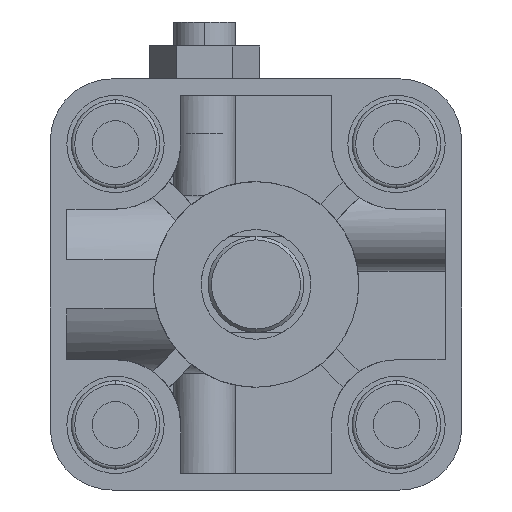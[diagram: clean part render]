
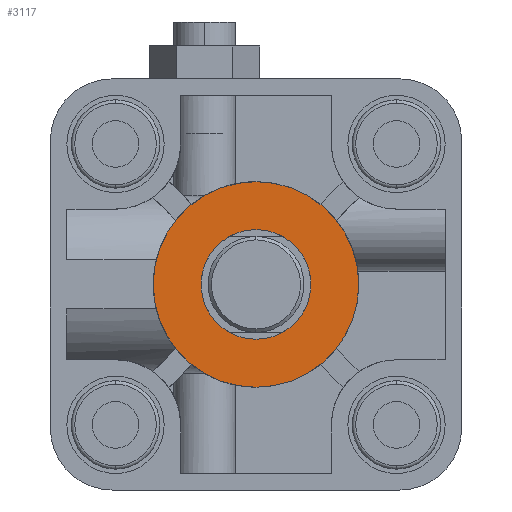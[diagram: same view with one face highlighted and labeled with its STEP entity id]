
A CAD part, left-side view. The second image highlights one B-rep face of the part: STEP entity #3117.
In plain terms, the highlighted planar face has unit normal (-1, 0, 0) as drawn and (1, 0, 0) by its records, which use the part's own axes.
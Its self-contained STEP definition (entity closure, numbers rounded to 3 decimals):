
#125 = DIRECTION ( 'NONE',  ( 0., 0., 1. ) ) ;
#453 = AXIS2_PLACEMENT_3D ( 'NONE', #4461, #2540, #125 ) ;
#469 = AXIS2_PLACEMENT_3D ( 'NONE', #6757, #7071, #9017 ) ;
#708 = CIRCLE ( 'NONE', #8933, 15. ) ;
#1201 = CARTESIAN_POINT ( 'NONE',  ( 24.5, 0., -15. ) ) ;
#1215 = DIRECTION ( 'NONE',  ( 0., 0., 1. ) ) ;
#1427 = CARTESIAN_POINT ( 'NONE',  ( 24.5, 0., 8. ) ) ;
#1555 = FACE_OUTER_BOUND ( 'NONE', #3121, .T. ) ;
#1601 = DIRECTION ( 'NONE',  ( -1., 0., 0. ) ) ;
#2091 = CARTESIAN_POINT ( 'NONE',  ( 24.5, 0., -8. ) ) ;
#2129 = CIRCLE ( 'NONE', #469, 8. ) ;
#2197 = VERTEX_POINT ( 'NONE', #1427 ) ;
#2540 = DIRECTION ( 'NONE',  ( -1., 0., 0. ) ) ;
#2864 = DIRECTION ( 'NONE',  ( -1., 0., 0. ) ) ;
#3117 = ADVANCED_FACE ( 'NONE', ( #1555, #9920 ), #8824, .F. ) ;
#3121 = EDGE_LOOP ( 'NONE', ( #9229, #6623 ) ) ;
#3122 = CIRCLE ( 'NONE', #3981, 8. ) ;
#3716 = DIRECTION ( 'NONE',  ( -1., 0., 0. ) ) ;
#3919 = EDGE_CURVE ( 'NONE', #9914, #6890, #3974, .T. ) ;
#3974 = CIRCLE ( 'NONE', #6706, 15. ) ;
#3981 = AXIS2_PLACEMENT_3D ( 'NONE', #6894, #2864, #1215 ) ;
#4030 = CARTESIAN_POINT ( 'NONE',  ( 24.5, 0., 0. ) ) ;
#4183 = CARTESIAN_POINT ( 'NONE',  ( 24.5, 0., 0. ) ) ;
#4461 = CARTESIAN_POINT ( 'NONE',  ( 24.5, 8., 0. ) ) ;
#5133 = EDGE_CURVE ( 'NONE', #2197, #6241, #3122, .T. ) ;
#5398 = ORIENTED_EDGE ( 'NONE', *, *, #6986, .T. ) ;
#5652 = ORIENTED_EDGE ( 'NONE', *, *, #5133, .T. ) ;
#5883 = EDGE_LOOP ( 'NONE', ( #5652, #5398 ) ) ;
#6241 = VERTEX_POINT ( 'NONE', #2091 ) ;
#6472 = EDGE_CURVE ( 'NONE', #6890, #9914, #708, .T. ) ;
#6623 = ORIENTED_EDGE ( 'NONE', *, *, #3919, .F. ) ;
#6706 = AXIS2_PLACEMENT_3D ( 'NONE', #4030, #3716, #9376 ) ;
#6757 = CARTESIAN_POINT ( 'NONE',  ( 24.5, 0., 0. ) ) ;
#6890 = VERTEX_POINT ( 'NONE', #9330 ) ;
#6894 = CARTESIAN_POINT ( 'NONE',  ( 24.5, 0., 0. ) ) ;
#6986 = EDGE_CURVE ( 'NONE', #6241, #2197, #2129, .T. ) ;
#7071 = DIRECTION ( 'NONE',  ( -1., 0., 0. ) ) ;
#7735 = DIRECTION ( 'NONE',  ( 0., 0., 1. ) ) ;
#8824 = PLANE ( 'NONE',  #453 ) ;
#8933 = AXIS2_PLACEMENT_3D ( 'NONE', #4183, #1601, #7735 ) ;
#9017 = DIRECTION ( 'NONE',  ( 0., 0., 1. ) ) ;
#9229 = ORIENTED_EDGE ( 'NONE', *, *, #6472, .F. ) ;
#9330 = CARTESIAN_POINT ( 'NONE',  ( 24.5, 0., 15. ) ) ;
#9376 = DIRECTION ( 'NONE',  ( 0., 0., 1. ) ) ;
#9914 = VERTEX_POINT ( 'NONE', #1201 ) ;
#9920 = FACE_BOUND ( 'NONE', #5883, .T. ) ;
